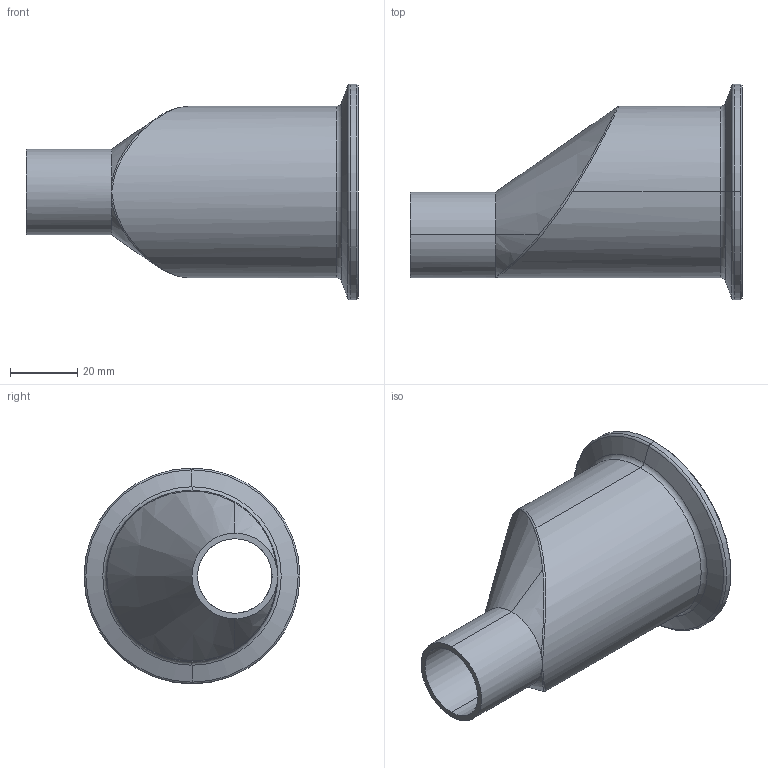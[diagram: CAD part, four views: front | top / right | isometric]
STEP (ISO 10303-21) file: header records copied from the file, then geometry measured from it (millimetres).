
FILE_DESCRIPTION (( 'STEP AP214' ), '1' );
FILE_NAME ('ARVS1.02.0WCA.STEP', '2016-06-01T09:52:04', ( 'eran' ), ( '' ), 'SwSTEP 2.0', 'SolidWorks 2016', '' );
FILE_SCHEMA (( 'AUTOMOTIVE_DESIGN' ));
Length unit declared in the file: millimetre
Products named in the file (1): ARVS1.02.0WCA
Bounding box: 98.42 x 64 x 64 mm (x, y, z)
Volume: 67749.3 mm3; surface area: 25229.1 mm2
Topology: 1 solids, 1 shells, 53 faces, 118 edges, 64 vertices
Faces by surface type: cone 19, torus 13, cylinder 13, bspline 5, plane 3
Entity records: 2321 total; most frequent: CARTESIAN_POINT 1158, DIRECTION 252, ORIENTED_EDGE 228, EDGE_CURVE 114, AXIS2_PLACEMENT_3D 112, VERTEX_POINT 64, CIRCLE 63, EDGE_LOOP 56
